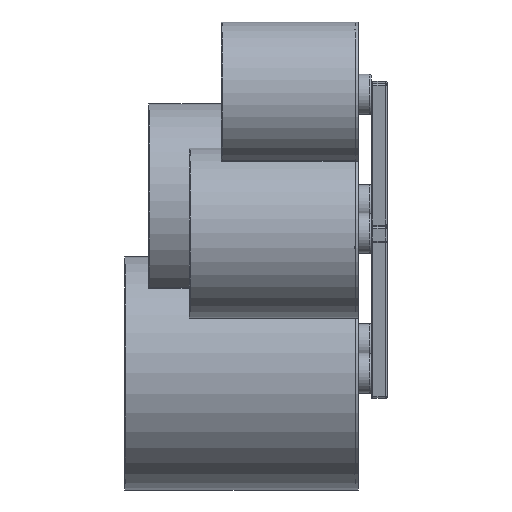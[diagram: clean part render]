
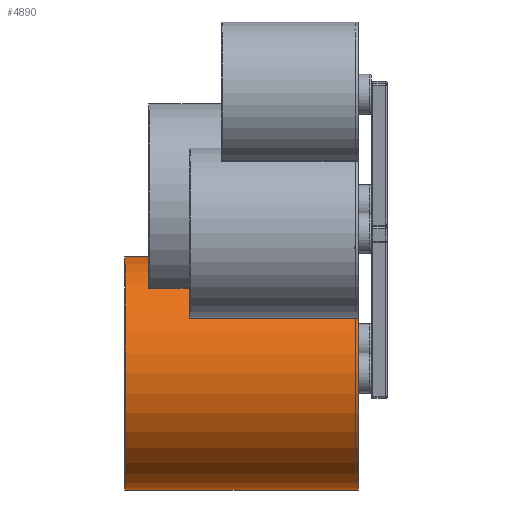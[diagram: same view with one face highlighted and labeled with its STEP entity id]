
A CAD part, left-side view. The second image highlights one B-rep face of the part: STEP entity #4890.
In plain terms, the highlighted cylindrical face has radius 145 mm (diameter 290 mm), a full revolution.
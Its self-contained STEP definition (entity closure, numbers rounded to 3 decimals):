
#551=LINE('',#15110,#817);
#817=VECTOR('',#6476,145.);
#1037=CYLINDRICAL_SURFACE('',#5413,145.);
#1279=FACE_OUTER_BOUND('',#1664,.T.);
#1664=EDGE_LOOP('',(#3914,#3915,#3916,#3917));
#2022=CIRCLE('',#5414,145.);
#2023=CIRCLE('',#5415,145.);
#2435=VERTEX_POINT('',#15107);
#2436=VERTEX_POINT('',#15109);
#2951=EDGE_CURVE('',#2435,#2435,#2022,.T.);
#2952=EDGE_CURVE('',#2435,#2436,#551,.T.);
#2953=EDGE_CURVE('',#2436,#2436,#2023,.T.);
#3914=ORIENTED_EDGE('',*,*,#2951,.F.);
#3915=ORIENTED_EDGE('',*,*,#2952,.T.);
#3916=ORIENTED_EDGE('',*,*,#2953,.T.);
#3917=ORIENTED_EDGE('',*,*,#2952,.F.);
#4890=ADVANCED_FACE('',(#1279),#1037,.T.);
#5413=AXIS2_PLACEMENT_3D('',#15106,#6472,#6473);
#5414=AXIS2_PLACEMENT_3D('',#15108,#6474,#6475);
#5415=AXIS2_PLACEMENT_3D('',#15111,#6477,#6478);
#6472=DIRECTION('center_axis',(0.,1.,0.));
#6473=DIRECTION('ref_axis',(1.,0.,0.));
#6474=DIRECTION('center_axis',(0.,1.,0.));
#6475=DIRECTION('ref_axis',(1.,0.,0.));
#6476=DIRECTION('',(0.,-1.,0.));
#6477=DIRECTION('center_axis',(0.,1.,0.));
#6478=DIRECTION('ref_axis',(1.,0.,0.));
#15106=CARTESIAN_POINT('Origin',(0.,0.,0.));
#15107=CARTESIAN_POINT('',(-145.,290.,0.));
#15108=CARTESIAN_POINT('Origin',(0.,290.,0.));
#15109=CARTESIAN_POINT('',(-145.,0.,0.));
#15110=CARTESIAN_POINT('',(-145.,0.,0.));
#15111=CARTESIAN_POINT('Origin',(0.,0.,0.));
